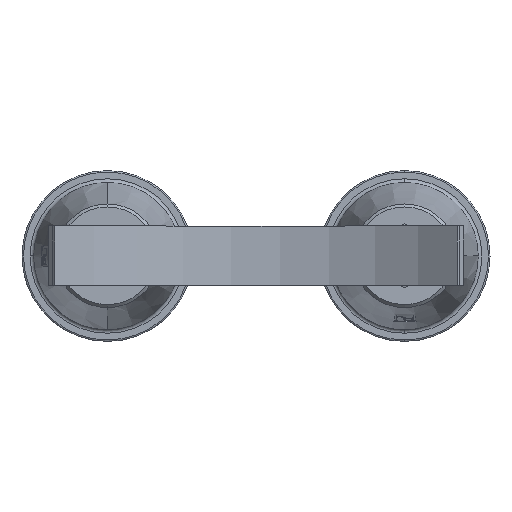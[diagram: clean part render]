
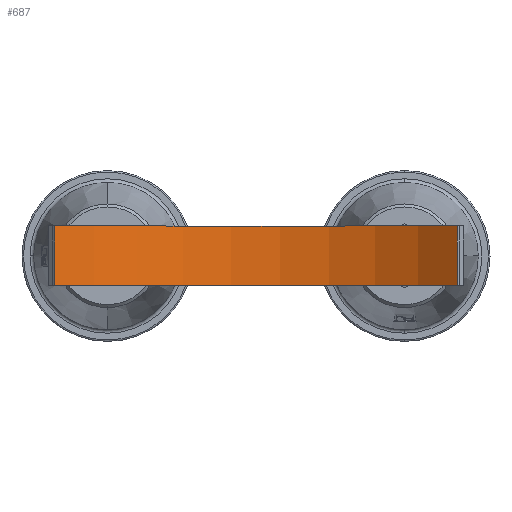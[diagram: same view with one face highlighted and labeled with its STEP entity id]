
A CAD part, top view. The second image highlights one B-rep face of the part: STEP entity #687.
In plain terms, the highlighted cylindrical face has radius 403 mm (diameter 806 mm), a partial arc.
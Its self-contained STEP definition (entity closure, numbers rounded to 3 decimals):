
#687=ADVANCED_FACE('',(#1337),#1338,.F.);
#1337=FACE_OUTER_BOUND('',#2008,.T.);
#1338=CYLINDRICAL_SURFACE('',#2009,403.);
#2008=EDGE_LOOP('',(#3682,#3683,#3684,#3685));
#2009=AXIS2_PLACEMENT_3D('',#3686,#3687,#3688);
#3682=ORIENTED_EDGE('',*,*,#4471,.T.);
#3683=ORIENTED_EDGE('',*,*,#4461,.F.);
#3684=ORIENTED_EDGE('',*,*,#4472,.T.);
#3685=ORIENTED_EDGE('',*,*,#4468,.T.);
#3686=CARTESIAN_POINT('',(368.802,688.634,461.539));
#3687=DIRECTION('',(0.,-1.0,0.));
#3688=DIRECTION('',(1.0,0.,0.));
#4461=EDGE_CURVE('',#5439,#5434,#5441,.T.);
#4468=EDGE_CURVE('',#5451,#5449,#5452,.T.);
#4471=EDGE_CURVE('',#5449,#5434,#5455,.T.);
#4472=EDGE_CURVE('',#5439,#5451,#5456,.T.);
#5434=VERTEX_POINT('',#7800);
#5439=VERTEX_POINT('',#7807);
#5441=LINE('',#7810,#7811);
#5449=VERTEX_POINT('',#7820);
#5451=VERTEX_POINT('',#7823);
#5452=LINE('',#7824,#7825);
#5455=CIRCLE('',#7829,403.);
#5456=CIRCLE('',#7830,403.);
#7800=CARTESIAN_POINT('',(639.546,608.634,163.031));
#7807=CARTESIAN_POINT('',(639.546,688.634,163.031));
#7810=CARTESIAN_POINT('',(639.546,688.634,163.031));
#7811=VECTOR('',#8856,1.);
#7820=CARTESIAN_POINT('',(97.833,608.634,163.236));
#7823=CARTESIAN_POINT('',(97.833,688.634,163.236));
#7824=CARTESIAN_POINT('',(97.833,688.634,163.236));
#7825=VECTOR('',#8865,1.);
#7829=AXIS2_PLACEMENT_3D('',#8867,#8868,#8869);
#7830=AXIS2_PLACEMENT_3D('',#8870,#8871,#8872);
#8856=DIRECTION('',(0.,-1.0,0.));
#8865=DIRECTION('',(0.,-1.0,0.));
#8867=CARTESIAN_POINT('',(368.802,608.634,461.539));
#8868=DIRECTION('',(0.,-1.0,0.));
#8869=DIRECTION('',(1.0,0.,0.));
#8870=CARTESIAN_POINT('',(368.802,688.634,461.539));
#8871=DIRECTION('',(0.,1.0,0.));
#8872=DIRECTION('',(1.0,0.,0.));
